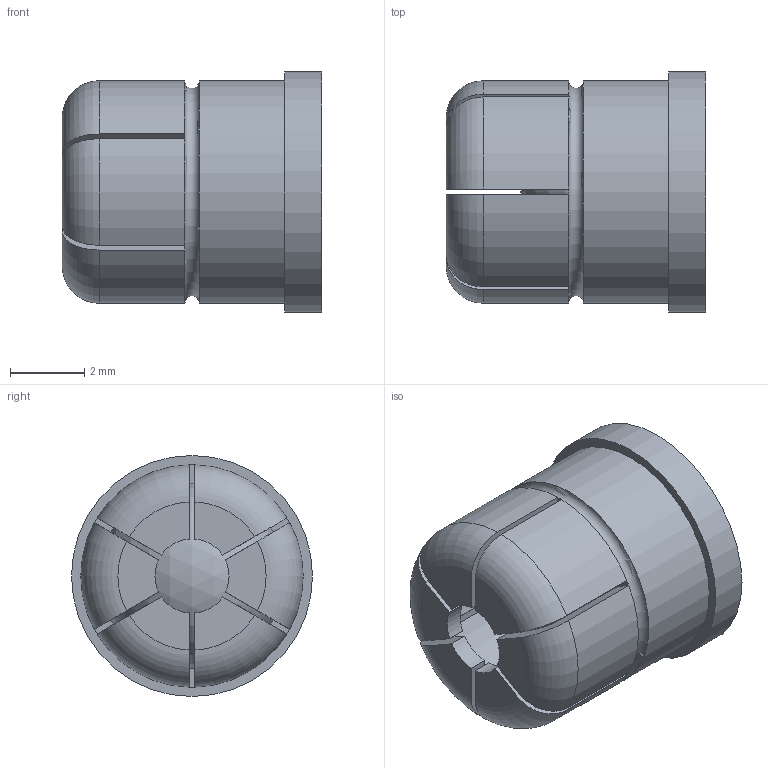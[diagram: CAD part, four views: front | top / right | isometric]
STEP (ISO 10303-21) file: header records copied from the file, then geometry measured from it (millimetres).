
FILE_DESCRIPTION( ( 'STEP AP203' ), '1' );
FILE_NAME( 'C:/Temp/Ganter_Step_05_03_2020/data/3_1/gn_614_5/Spring plunger GN 614.5-6-KU (activated).stp', '2020-03-12T09:12:52', ( 'License CC BY-ND 4.0' ), ( 'CADENAS' ), ' ', 'PARTsolutions', ' ' );
FILE_SCHEMA( ( 'CONFIG_CONTROL_DESIGN' ) );
Length unit declared in the file: millimetre
Products named in the file (1): _Spring plunger GN 614.5-6-KU (activated)
Bounding box: 7 x 6.5 x 6.5 mm (x, y, z)
Volume: 133.9 mm3; surface area: 374 mm2
Topology: 1 solids, 1 shells, 63 faces, 165 edges, 106 vertices
Faces by surface type: plane 32, cylinder 16, torus 13, sphere 2
Full cylindrical faces by diameter (mm): 4.98 x2, 6 x1, 6.5 x1
Entity records: 2044 total; most frequent: CARTESIAN_POINT 480, DIRECTION 322, ORIENTED_EDGE 314, EDGE_CURVE 157, AXIS2_PLACEMENT_3D 125, VERTEX_POINT 103, LINE 72, VECTOR 72
